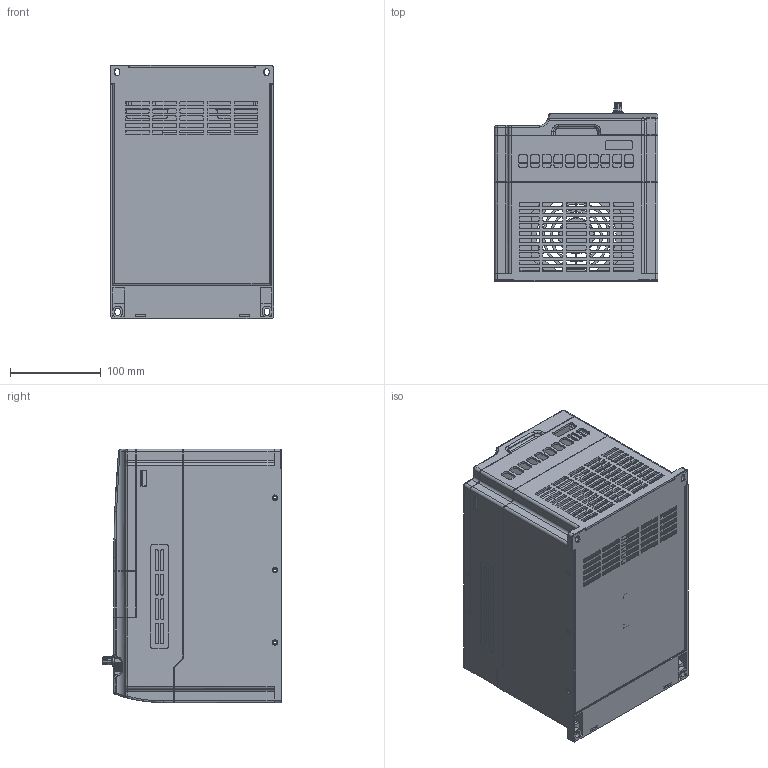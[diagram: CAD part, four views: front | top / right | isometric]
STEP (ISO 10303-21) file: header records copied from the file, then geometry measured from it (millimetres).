
FILE_DESCRIPTION (( 'STEP AP214' ), '1' );
FILE_NAME ('B-7Ê5-H5K5-380-0-Ò; B-11Ê-Í7K5-380-0-Ò.STEP', '2022-06-04T08:22:19', ( '' ), ( '' ), 'SwSTEP 2.0', 'SolidWorks 2018', '' );
FILE_SCHEMA (( 'AUTOMOTIVE_DESIGN' ));
Length unit declared in the file: millimetre
Products named in the file (18): CDI-D2R2-807___ _____________ _____________^CDI-D2R2-102_ASM_OptiCor B-7Ê5-H5K5-380-0-Ò-0; B-11Ê-Í7K5-380-0-Ò-0_B-7Ê5-H5K5-380-0-Ò; B-11Ê-Í7K5-380-0-Ò; CDI-D2R2-806___ _____________ _____________^CDI-D2R2-102_ASM_OptiCor B-7Ê5-H5K5-380-0-Ò-0; B-11Ê-Í7K5-380-0-Ò-0_B-7Ê5-H5K5-380-0-Ò; B-11Ê-Í7K5-380-0-Ò; CDI-D2R2-JP_ASM^CDI-D2R2-102_ASM_OptiCor B-7Ê5-H5K5-380-0-Ò-0; B-11Ê-Í7K5-380-0-Ò-0_B-7Ê5-H5K5-380-0-Ò; B-11Ê-Í7K5-380-0-Ò; 8P1615___ _____________ _____________^CDI-D2R2-JP_ASM_CDI-D2R2-102_ASM_OptiCor B-7Ê5-H5K5-380-0-Ò-0; B-11Ê-Í7K5-380-0-Ò-0_B-7Ê5-H5K5-380-0-Ò; B-11Ê-Í7K5-380-0-Ò; CDI-D2R2-JP___ _____________ _____________^CDI-D2R2-JP_ASM_CDI-D2R2-102_ASM_OptiCor B-7Ê5-H5K5-380-0-Ò-0; B-11Ê-Í7K5-380-0-Ò-0_B-7Ê5-H5K5-380-0-Ò; B-11Ê-Í7K5-380-0-Ò; B-7ﾊ5-H5K5-380-0-ﾒ; B-11ﾊ-ﾍ7K5-380-0-ﾒ; E102-5R5-804___ _____________ _____________^OptiCor B-7ﾊ5-H5K5-380-0-ﾒ-0; B-11ﾊ-ﾍ7K5-380-0-ﾒ-0_B-7ﾊ5-H5K5-380-0-ﾒ; B-11ﾊ-ﾍ7K5-380-0-ﾒ; OptiCor B-7ﾊ5-H5K5-380-0-ﾒ-0; B-11ﾊ-ﾍ7K5-380-0-ﾒ-0^B-7ﾊ5-H5K5-380-0-ﾒ; B-11ﾊ-ﾍ7K5-380-0-ﾒ; E102-5R5-803_A0___ _____________ _____________^OptiCor B-7ﾊ5-H5K5-380-0-ﾒ-0; B-11ﾊ-ﾍ7K5-380-0-ﾒ-0_B-7ﾊ5-H5K5-380-0-ﾒ; B-11ﾊ-ﾍ7K5-380-0-ﾒ; E102-5R5-802___ _____________ _____________^OptiCor B-7ﾊ5-H5K5-380-0-ﾒ-0; B-11ﾊ-ﾍ7K5-380-0-ﾒ-0_B-7ﾊ5-H5K5-380-0-ﾒ; B-11ﾊ-ﾍ7K5-380-0-ﾒ; E102-5R5-801_A0___ _____________ _____________^OptiCor B-7ﾊ5-H5K5-380-0-ﾒ-0; B-11ﾊ-ﾍ7K5-380-0-ﾒ-0_B-7ﾊ5-H5K5-380-0-ﾒ; B-11ﾊ-ﾍ7K5-380-0-ﾒ; E102-5R5-301_ASM^OptiCor B-7ﾊ5-H5K5-380-0-ﾒ-0; B-11ﾊ-ﾍ7K5-380-0-ﾒ-0_B-7ﾊ5-H5K5-380-0-ﾒ; B-11ﾊ-ﾍ7K5-380-0-ﾒ; S-M3-1_1___ _____________ _____________^E102-5R5-301_ASM_OptiCor B-7ﾊ5-H5K5-380-0-ﾒ-0; B-11ﾊ-ﾍ7K5-380-0-ﾒ-0_B-7ﾊ5-H5K5-380-0-ﾒ; B-11ﾊ-ﾍ7K5-380-0-ﾒ; E102-5R5-301___ _____________ _____________^E102-5R5-301_ASM_OptiCor B-7ﾊ5-H5K5-380-0-ﾒ-0; B-11ﾊ-ﾍ7K5-380-0-ﾒ-0_B-7ﾊ5-H5K5-380-0-ﾒ; B-11ﾊ-ﾍ7K5-380-0-ﾒ; CDI-D2R2-102_ASM^OptiCor B-7ﾊ5-H5K5-380-0-ﾒ-0; B-11ﾊ-ﾍ7K5-380-0-ﾒ-0_B-7ﾊ5-H5K5-380-0-ﾒ; B-11ﾊ-ﾍ7K5-380-0-ﾒ; CDI-D2R2-TM___ _____________ _____________^CDI-D2R2-102_ASM_OptiCor B-7Ê5-H5K5-380-0-Ò-0; B-11Ê-Í7K5-380-0-Ò-0_B-7Ê5-H5K5-380-0-Ò; B-11Ê-Í7K5-380-0-Ò; CDI-D2R2-JP1___ _____________ _____________^CDI-D2R2-102_ASM_OptiCor B-7Ê5-H5K5-380-0-Ò-0; B-11Ê-Í7K5-380-0-Ò-0_B-7Ê5-H5K5-380-0-Ò; B-11Ê-Í7K5-380-0-Ò; CDI-D2R2-811___ _____________ _____________^CDI-D2R2-102_ASM_OptiCor B-7Ê5-H5K5-380-0-Ò-0; B-11Ê-Í7K5-380-0-Ò-0_B-7Ê5-H5K5-380-0-Ò; B-11Ê-Í7K5-380-0-Ò
Assembly tree (22 placements, depth 5):
  B-7ﾊ5-H5K5-380-0-ﾒ; B-11ﾊ-ﾍ7K5-380-0-ﾒ
    OptiCor B-7ﾊ5-H5K5-380-0-ﾒ-0; B-11ﾊ-ﾍ7K5-380-0-ﾒ-0^B-7ﾊ5-H5K5-380-0-ﾒ; B-11ﾊ-ﾍ7K5-380-0-ﾒ
      CDI-D2R2-102_ASM^OptiCor B-7ﾊ5-H5K5-380-0-ﾒ-0; B-11ﾊ-ﾍ7K5-380-0-ﾒ-0_B-7ﾊ5-H5K5-380-0-ﾒ; B-11ﾊ-ﾍ7K5-380-0-ﾒ
        CDI-D2R2-JP_ASM^CDI-D2R2-102_ASM_OptiCor B-7Ê5-H5K5-380-0-Ò-0; B-11Ê-Í7K5-380-0-Ò-0_B-7Ê5-H5K5-380-0-Ò; B-11Ê-Í7K5-380-0-Ò
          CDI-D2R2-JP___ _____________ _____________^CDI-D2R2-JP_ASM_CDI-D2R2-102_ASM_OptiCor B-7Ê5-H5K5-380-0-Ò-0; B-11Ê-Í7K5-380-0-Ò-0_B-7Ê5-H5K5-380-0-Ò; B-11Ê-Í7K5-380-0-Ò
          8P1615___ _____________ _____________^CDI-D2R2-JP_ASM_CDI-D2R2-102_ASM_OptiCor B-7Ê5-H5K5-380-0-Ò-0; B-11Ê-Í7K5-380-0-Ò-0_B-7Ê5-H5K5-380-0-Ò; B-11Ê-Í7K5-380-0-Ò
        CDI-D2R2-806___ _____________ _____________^CDI-D2R2-102_ASM_OptiCor B-7Ê5-H5K5-380-0-Ò-0; B-11Ê-Í7K5-380-0-Ò-0_B-7Ê5-H5K5-380-0-Ò; B-11Ê-Í7K5-380-0-Ò
        CDI-D2R2-807___ _____________ _____________^CDI-D2R2-102_ASM_OptiCor B-7Ê5-H5K5-380-0-Ò-0; B-11Ê-Í7K5-380-0-Ò-0_B-7Ê5-H5K5-380-0-Ò; B-11Ê-Í7K5-380-0-Ò
        CDI-D2R2-811___ _____________ _____________^CDI-D2R2-102_ASM_OptiCor B-7Ê5-H5K5-380-0-Ò-0; B-11Ê-Í7K5-380-0-Ò-0_B-7Ê5-H5K5-380-0-Ò; B-11Ê-Í7K5-380-0-Ò
        CDI-D2R2-JP1___ _____________ _____________^CDI-D2R2-102_ASM_OptiCor B-7Ê5-H5K5-380-0-Ò-0; B-11Ê-Í7K5-380-0-Ò-0_B-7Ê5-H5K5-380-0-Ò; B-11Ê-Í7K5-380-0-Ò
        CDI-D2R2-TM___ _____________ _____________^CDI-D2R2-102_ASM_OptiCor B-7Ê5-H5K5-380-0-Ò-0; B-11Ê-Í7K5-380-0-Ò-0_B-7Ê5-H5K5-380-0-Ò; B-11Ê-Í7K5-380-0-Ò
      E102-5R5-301_ASM^OptiCor B-7ﾊ5-H5K5-380-0-ﾒ-0; B-11ﾊ-ﾍ7K5-380-0-ﾒ-0_B-7ﾊ5-H5K5-380-0-ﾒ; B-11ﾊ-ﾍ7K5-380-0-ﾒ
        E102-5R5-301___ _____________ _____________^E102-5R5-301_ASM_OptiCor B-7ﾊ5-H5K5-380-0-ﾒ-0; B-11ﾊ-ﾍ7K5-380-0-ﾒ-0_B-7ﾊ5-H5K5-380-0-ﾒ; B-11ﾊ-ﾍ7K5-380-0-ﾒ
        S-M3-1_1___ _____________ _____________^E102-5R5-301_ASM_OptiCor B-7ﾊ5-H5K5-380-0-ﾒ-0; B-11ﾊ-ﾍ7K5-380-0-ﾒ-0_B-7ﾊ5-H5K5-380-0-ﾒ; B-11ﾊ-ﾍ7K5-380-0-ﾒ  x6
      E102-5R5-801_A0___ _____________ _____________^OptiCor B-7ﾊ5-H5K5-380-0-ﾒ-0; B-11ﾊ-ﾍ7K5-380-0-ﾒ-0_B-7ﾊ5-H5K5-380-0-ﾒ; B-11ﾊ-ﾍ7K5-380-0-ﾒ
      E102-5R5-802___ _____________ _____________^OptiCor B-7ﾊ5-H5K5-380-0-ﾒ-0; B-11ﾊ-ﾍ7K5-380-0-ﾒ-0_B-7ﾊ5-H5K5-380-0-ﾒ; B-11ﾊ-ﾍ7K5-380-0-ﾒ
      E102-5R5-803_A0___ _____________ _____________^OptiCor B-7ﾊ5-H5K5-380-0-ﾒ-0; B-11ﾊ-ﾍ7K5-380-0-ﾒ-0_B-7ﾊ5-H5K5-380-0-ﾒ; B-11ﾊ-ﾍ7K5-380-0-ﾒ
      E102-5R5-804___ _____________ _____________^OptiCor B-7ﾊ5-H5K5-380-0-ﾒ-0; B-11ﾊ-ﾍ7K5-380-0-ﾒ-0_B-7ﾊ5-H5K5-380-0-ﾒ; B-11ﾊ-ﾍ7K5-380-0-ﾒ
Bounding box: 180.7 x 197.7 x 280 mm (x, y, z)
Volume: 752344.1 mm3; surface area: 758849 mm2
Topology: 19 solids, 19 shells, 3556 faces, 9713 edges, 6330 vertices
Faces by surface type: plane 2162, cylinder 1130, bspline 131, cone 129, torus 4
Entity records: 133336 total; most frequent: CARTESIAN_POINT 46772, ORIENTED_EDGE 19176, DIRECTION 15553, EDGE_CURVE 9588, VERTEX_POINT 6270, LINE 6135, VECTOR 6135, AXIS2_PLACEMENT_3D 4709
